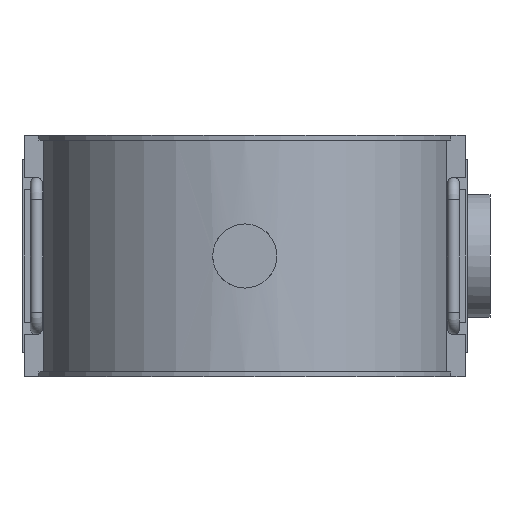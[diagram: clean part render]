
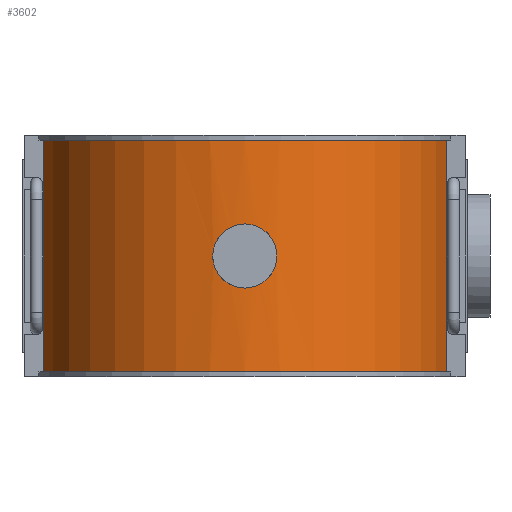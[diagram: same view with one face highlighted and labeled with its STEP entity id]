
A CAD part, front view. The second image highlights one B-rep face of the part: STEP entity #3602.
In plain terms, the highlighted cylindrical face has radius 100.8 mm (diameter 201.6 mm), a partial arc.
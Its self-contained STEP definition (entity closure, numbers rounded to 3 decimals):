
#57=FACE_BOUND('',#543,.T.);
#86=B_SPLINE_CURVE_WITH_KNOTS('',3,(#5770,#5771,#5772,#5773,#5774,#5775,
#5776,#5777,#5778,#5779,#5780,#5781,#5782,#5783,#5784,#5785,#5786,#5787,
#5788,#5789,#5790,#5791,#5792,#5793,#5794,#5795,#5796,#5797,#5798,#5799,
#5800,#5801,#5802,#5803),.UNSPECIFIED.,.F.,.F.,(4,2,2,2,2,2,2,2,2,2,2,2,
2,2,2,2,4),(0.,0.296,0.592,0.888,1.183,
1.479,1.775,2.071,2.367,2.663,
2.958,3.254,3.55,3.846,4.142,
4.438,4.733),.UNSPECIFIED.);
#87=B_SPLINE_CURVE_WITH_KNOTS('',3,(#5804,#5805,#5806,#5807,#5808,#5809,
#5810,#5811,#5812,#5813,#5814,#5815,#5816,#5817,#5818,#5819,#5820,#5821,
#5822,#5823,#5824,#5825,#5826,#5827,#5828,#5829,#5830,#5831,#5832,#5833,
#5834,#5835,#5836,#5837),.UNSPECIFIED.,.F.,.F.,(4,2,2,2,2,2,2,2,2,2,2,2,
2,2,2,2,4),(4.733,5.029,5.325,5.621,
5.917,6.213,6.508,6.804,7.1,
7.396,7.692,7.988,8.283,8.579,
8.875,9.171,9.467),.UNSPECIFIED.);
#335=FACE_OUTER_BOUND('',#542,.T.);
#542=EDGE_LOOP('',(#2828,#2829,#2830,#2831));
#543=EDGE_LOOP('',(#2832,#2833));
#749=CIRCLE('',#3884,100.8);
#761=CIRCLE('',#3905,100.8);
#929=LINE('',#6291,#1261);
#959=LINE('',#6455,#1291);
#1261=VECTOR('',#4495,10.);
#1291=VECTOR('',#4567,10.);
#1597=VERTEX_POINT('',#5767);
#1598=VERTEX_POINT('',#5769);
#1625=VERTEX_POINT('',#6223);
#1626=VERTEX_POINT('',#6225);
#1641=VERTEX_POINT('',#6290);
#1659=VERTEX_POINT('',#6360);
#1997=EDGE_CURVE('',#1598,#1597,#86,.T.);
#1998=EDGE_CURVE('',#1597,#1598,#87,.T.);
#2032=EDGE_CURVE('',#1625,#1626,#749,.T.);
#2050=EDGE_CURVE('',#1641,#1625,#929,.T.);
#2075=EDGE_CURVE('',#1659,#1641,#761,.T.);
#2099=EDGE_CURVE('',#1659,#1626,#959,.T.);
#2828=ORIENTED_EDGE('',*,*,#2032,.T.);
#2829=ORIENTED_EDGE('',*,*,#2099,.F.);
#2830=ORIENTED_EDGE('',*,*,#2075,.T.);
#2831=ORIENTED_EDGE('',*,*,#2050,.T.);
#2832=ORIENTED_EDGE('',*,*,#1997,.T.);
#2833=ORIENTED_EDGE('',*,*,#1998,.T.);
#3497=CYLINDRICAL_SURFACE('',#3913,100.8);
#3602=ADVANCED_FACE('',(#335,#57),#3497,.T.);
#3884=AXIS2_PLACEMENT_3D('',#6227,#4467,#4468);
#3905=AXIS2_PLACEMENT_3D('',#6361,#4536,#4537);
#3913=AXIS2_PLACEMENT_3D('',#6456,#4568,#4569);
#4467=DIRECTION('center_axis',(0.,0.,1.));
#4468=DIRECTION('ref_axis',(-1.,0.,0.));
#4495=DIRECTION('',(0.,0.,-1.));
#4536=DIRECTION('center_axis',(0.,0.,-1.));
#4537=DIRECTION('ref_axis',(-1.,0.,0.));
#4567=DIRECTION('',(0.,0.,-1.));
#4568=DIRECTION('center_axis',(0.,0.,1.));
#4569=DIRECTION('ref_axis',(-1.,0.,0.));
#5767=CARTESIAN_POINT('',(-15.68,-99.573,0.));
#5769=CARTESIAN_POINT('',(15.68,-99.573,0.));
#5770=CARTESIAN_POINT('Ctrl Pts',(15.68,-99.573,0.));
#5771=CARTESIAN_POINT('Ctrl Pts',(15.68,-99.573,-0.986));
#5772=CARTESIAN_POINT('Ctrl Pts',(15.585,-99.588,-2.005));
#5773=CARTESIAN_POINT('Ctrl Pts',(15.188,-99.649,-4.032));
#5774=CARTESIAN_POINT('Ctrl Pts',(14.885,-99.696,-5.039));
#5775=CARTESIAN_POINT('Ctrl Pts',(14.084,-99.812,-6.97));
#5776=CARTESIAN_POINT('Ctrl Pts',(13.586,-99.882,-7.896));
#5777=CARTESIAN_POINT('Ctrl Pts',(12.435,-100.032,-9.607));
#5778=CARTESIAN_POINT('Ctrl Pts',(11.783,-100.111,-10.392));
#5779=CARTESIAN_POINT('Ctrl Pts',(10.392,-100.265,-11.783));
#5780=CARTESIAN_POINT('Ctrl Pts',(9.607,-100.345,-12.435));
#5781=CARTESIAN_POINT('Ctrl Pts',(7.896,-100.494,-13.586));
#5782=CARTESIAN_POINT('Ctrl Pts',(6.97,-100.563,-14.084));
#5783=CARTESIAN_POINT('Ctrl Pts',(5.039,-100.679,-14.885));
#5784=CARTESIAN_POINT('Ctrl Pts',(4.032,-100.724,-15.188));
#5785=CARTESIAN_POINT('Ctrl Pts',(2.005,-100.785,-15.585));
#5786=CARTESIAN_POINT('Ctrl Pts',(0.986,-100.8,-15.68));
#5787=CARTESIAN_POINT('Ctrl Pts',(-0.986,-100.8,-15.68));
#5788=CARTESIAN_POINT('Ctrl Pts',(-2.005,-100.785,-15.585));
#5789=CARTESIAN_POINT('Ctrl Pts',(-4.032,-100.724,-15.188));
#5790=CARTESIAN_POINT('Ctrl Pts',(-5.039,-100.679,-14.885));
#5791=CARTESIAN_POINT('Ctrl Pts',(-6.97,-100.563,-14.084));
#5792=CARTESIAN_POINT('Ctrl Pts',(-7.896,-100.494,-13.586));
#5793=CARTESIAN_POINT('Ctrl Pts',(-9.607,-100.345,-12.435));
#5794=CARTESIAN_POINT('Ctrl Pts',(-10.392,-100.265,-11.783));
#5795=CARTESIAN_POINT('Ctrl Pts',(-11.783,-100.111,-10.392));
#5796=CARTESIAN_POINT('Ctrl Pts',(-12.435,-100.032,-9.607));
#5797=CARTESIAN_POINT('Ctrl Pts',(-13.586,-99.882,-7.896));
#5798=CARTESIAN_POINT('Ctrl Pts',(-14.084,-99.812,-6.97));
#5799=CARTESIAN_POINT('Ctrl Pts',(-14.885,-99.696,-5.039));
#5800=CARTESIAN_POINT('Ctrl Pts',(-15.188,-99.649,-4.032));
#5801=CARTESIAN_POINT('Ctrl Pts',(-15.585,-99.588,-2.005));
#5802=CARTESIAN_POINT('Ctrl Pts',(-15.68,-99.573,-0.986));
#5803=CARTESIAN_POINT('Ctrl Pts',(-15.68,-99.573,0.));
#5804=CARTESIAN_POINT('Ctrl Pts',(-15.68,-99.573,0.));
#5805=CARTESIAN_POINT('Ctrl Pts',(-15.68,-99.573,0.986));
#5806=CARTESIAN_POINT('Ctrl Pts',(-15.585,-99.588,2.005));
#5807=CARTESIAN_POINT('Ctrl Pts',(-15.188,-99.649,4.032));
#5808=CARTESIAN_POINT('Ctrl Pts',(-14.885,-99.696,5.039));
#5809=CARTESIAN_POINT('Ctrl Pts',(-14.084,-99.812,6.97));
#5810=CARTESIAN_POINT('Ctrl Pts',(-13.586,-99.882,7.896));
#5811=CARTESIAN_POINT('Ctrl Pts',(-12.435,-100.032,9.607));
#5812=CARTESIAN_POINT('Ctrl Pts',(-11.783,-100.111,10.392));
#5813=CARTESIAN_POINT('Ctrl Pts',(-10.392,-100.265,11.783));
#5814=CARTESIAN_POINT('Ctrl Pts',(-9.607,-100.345,12.435));
#5815=CARTESIAN_POINT('Ctrl Pts',(-7.896,-100.494,13.586));
#5816=CARTESIAN_POINT('Ctrl Pts',(-6.97,-100.563,14.084));
#5817=CARTESIAN_POINT('Ctrl Pts',(-5.039,-100.679,14.885));
#5818=CARTESIAN_POINT('Ctrl Pts',(-4.032,-100.724,15.188));
#5819=CARTESIAN_POINT('Ctrl Pts',(-2.005,-100.785,15.585));
#5820=CARTESIAN_POINT('Ctrl Pts',(-0.986,-100.8,15.68));
#5821=CARTESIAN_POINT('Ctrl Pts',(0.986,-100.8,15.68));
#5822=CARTESIAN_POINT('Ctrl Pts',(2.005,-100.785,15.585));
#5823=CARTESIAN_POINT('Ctrl Pts',(4.032,-100.724,15.188));
#5824=CARTESIAN_POINT('Ctrl Pts',(5.039,-100.679,14.885));
#5825=CARTESIAN_POINT('Ctrl Pts',(6.97,-100.563,14.084));
#5826=CARTESIAN_POINT('Ctrl Pts',(7.896,-100.494,13.586));
#5827=CARTESIAN_POINT('Ctrl Pts',(9.607,-100.345,12.435));
#5828=CARTESIAN_POINT('Ctrl Pts',(10.392,-100.265,11.783));
#5829=CARTESIAN_POINT('Ctrl Pts',(11.783,-100.111,10.392));
#5830=CARTESIAN_POINT('Ctrl Pts',(12.435,-100.032,9.607));
#5831=CARTESIAN_POINT('Ctrl Pts',(13.586,-99.882,7.896));
#5832=CARTESIAN_POINT('Ctrl Pts',(14.084,-99.812,6.97));
#5833=CARTESIAN_POINT('Ctrl Pts',(14.885,-99.696,5.039));
#5834=CARTESIAN_POINT('Ctrl Pts',(15.188,-99.649,4.032));
#5835=CARTESIAN_POINT('Ctrl Pts',(15.585,-99.588,2.005));
#5836=CARTESIAN_POINT('Ctrl Pts',(15.68,-99.573,0.986));
#5837=CARTESIAN_POINT('Ctrl Pts',(15.68,-99.573,0.));
#6223=CARTESIAN_POINT('',(-98.588,-21.,-56.693));
#6225=CARTESIAN_POINT('',(98.588,-21.,-56.693));
#6227=CARTESIAN_POINT('Origin',(0.,0.,-56.693));
#6290=CARTESIAN_POINT('',(-98.588,-21.,56.693));
#6291=CARTESIAN_POINT('',(-98.588,-21.,0.));
#6360=CARTESIAN_POINT('',(98.588,-21.,56.693));
#6361=CARTESIAN_POINT('Origin',(0.,0.,56.693));
#6455=CARTESIAN_POINT('',(98.588,-21.,0.));
#6456=CARTESIAN_POINT('Origin',(0.,0.,0.));
